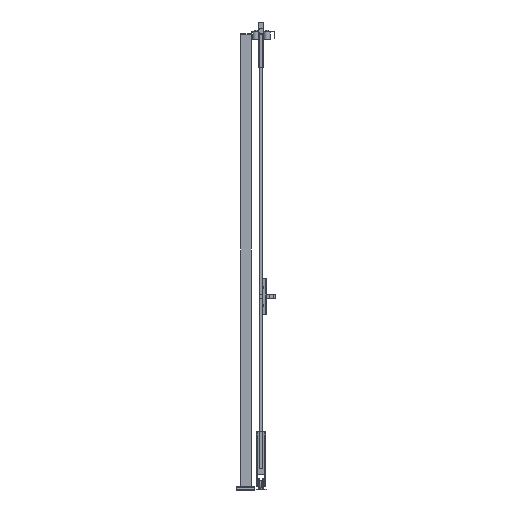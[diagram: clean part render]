
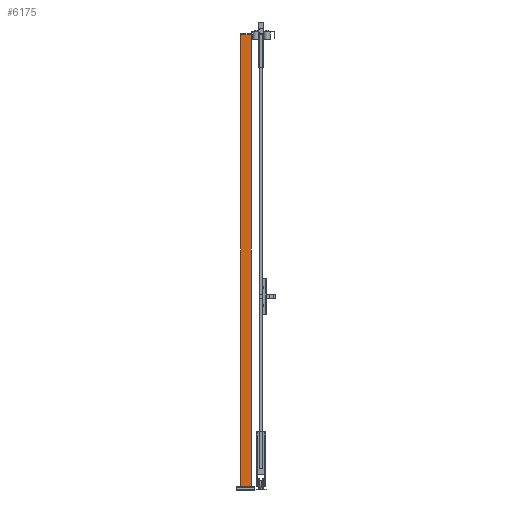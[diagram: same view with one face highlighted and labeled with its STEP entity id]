
A CAD part, left-side view. The second image highlights one B-rep face of the part: STEP entity #6175.
In plain terms, the highlighted planar face has unit normal (-1, 0, 0) as drawn and (0, 1, 0) by its records, which use the part's own axes.
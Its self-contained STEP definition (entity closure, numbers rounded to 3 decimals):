
#657=FACE_OUTER_BOUND('',#1097,.T.);
#1097=EDGE_LOOP('',(#3787,#3788,#3789,#3790));
#1598=VERTEX_POINT('',#12333);
#1599=VERTEX_POINT('',#12335);
#1601=VERTEX_POINT('',#12341);
#1604=VERTEX_POINT('',#12346);
#2498=EDGE_CURVE('',#1598,#1599,#7072,.T.);
#2504=EDGE_CURVE('',#1604,#1601,#7078,.T.);
#2507=EDGE_CURVE('',#1599,#1604,#7081,.T.);
#2508=EDGE_CURVE('',#1598,#1601,#7082,.T.);
#3787=ORIENTED_EDGE('',*,*,#2508,.T.);
#3788=ORIENTED_EDGE('',*,*,#2504,.F.);
#3789=ORIENTED_EDGE('',*,*,#2507,.F.);
#3790=ORIENTED_EDGE('',*,*,#2498,.F.);
#5803=PLANE('',#8936);
#6175=ADVANCED_FACE('',(#657),#5803,.F.);
#7072=LINE('',#12336,#8056);
#7078=LINE('',#12348,#8062);
#7081=LINE('',#12353,#8065);
#7082=LINE('',#12355,#8066);
#8056=VECTOR('',#9815,1.);
#8062=VECTOR('',#9823,1.);
#8065=VECTOR('',#9830,1.);
#8066=VECTOR('',#9833,1.);
#8936=AXIS2_PLACEMENT_3D('',#12354,#9831,#9832);
#9815=DIRECTION('',(-1.,0.,0.));
#9823=DIRECTION('',(1.,0.,0.));
#9830=DIRECTION('',(0.,0.,-1.));
#9831=DIRECTION('center_axis',(0.,-1.,0.));
#9832=DIRECTION('ref_axis',(0.,0.,-1.));
#9833=DIRECTION('',(0.,0.,-1.));
#12333=CARTESIAN_POINT('',(30.,30.,2520.));
#12335=CARTESIAN_POINT('',(-30.,30.,2520.));
#12336=CARTESIAN_POINT('',(0.,30.,2520.));
#12341=CARTESIAN_POINT('',(30.,30.,20.));
#12346=CARTESIAN_POINT('',(-30.,30.,20.));
#12348=CARTESIAN_POINT('',(0.,30.,20.));
#12353=CARTESIAN_POINT('',(-30.,30.,1270.));
#12354=CARTESIAN_POINT('Origin',(0.,30.,
1270.));
#12355=CARTESIAN_POINT('',(30.,30.,1270.));
